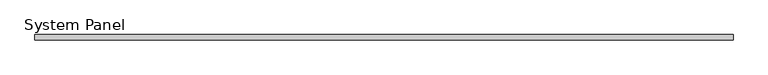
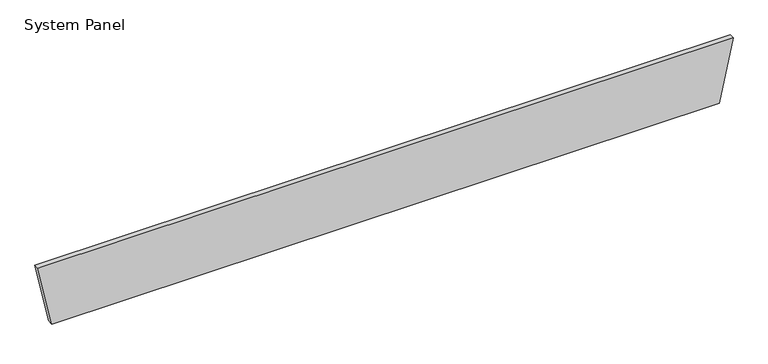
"""IFC4 building model written with IfcOpenShell, lengths in millimetres: plate geometry, System Panel : Equitilt_100mm_Plain_Surfmist."""

from ifc_helpers import new_model, si_unit, frame, origin, place, context, project, spatial, polyline, outline, extrude, source, transform, mapped, element, save


def system_panel_0a53ee62(model_context):
    return source(origin(), model_context, "Body", "SweptSolid", [
        extrude(outline(polyline([(0.0, -6260.8716619), (0.0, 6260.8716619), (1200.0, 6521.7433237), (1200.0, -6521.7433237), (0.0, -6260.8716619)])), frame((0.0, -100.0, 0.0), z_axis=(0.0, 1.0, 0.0), x_axis=(0.0, 0.0, 1.0)), (0.0, 0.0, 1.0), 100.0),
    ])


if __name__ == "__main__":
    model = new_model("IFC4")
    model_context = context("Model", 3, world=origin())
    ifc_project = project(units=[si_unit("LENGTHUNIT", "METRE", prefix="MILLI")], contexts=[model_context])
    site = spatial("IfcSite", under=ifc_project)
    building = spatial("IfcBuilding", under=site)
    placement = place(None, origin())
    system_panel_shape = system_panel_0a53ee62(model_context)
    element("IfcPlate", 1, ObjectType="System Panel : Equitilt_100mm_Plain_Surfmist", at=placement, inside=building, context=model_context, shape_type="MappedRepresentation", body=[
        mapped(system_panel_shape, transform((0.0, 0.0, 0.0), x_axis=(1.0, 0.0, 0.0), y_axis=(0.0, 1.0, 0.0), z_axis=(0.0, 0.0, 1.0))),
    ])
    save(model, "model.ifc")
